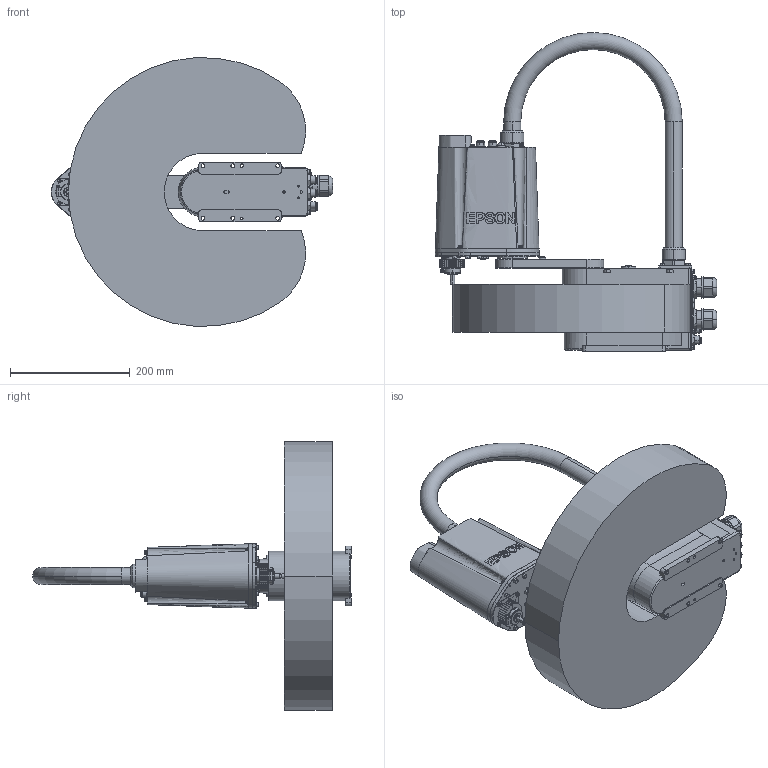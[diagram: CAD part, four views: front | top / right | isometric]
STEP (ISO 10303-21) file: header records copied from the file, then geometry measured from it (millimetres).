
FILE_DESCRIPTION (( 'STEP AP214' ), '1' );
FILE_NAME ('GX1-x221C.STEP', '2025-04-16T21:09:35', ( '' ), ( '' ), 'SwSTEP 2.0', 'SolidWorks 2020', '' );
FILE_SCHEMA (( 'AUTOMOTIVE_DESIGN' ));
Length unit declared in the file: millimetre
Products named in the file (9): GX1-C221C - Shaft; GX1-C221C-J1 Arm 2; GX1-C221C-cable; Bellows 2  - GX1-C221C; GX1-C221C-WS; Bellows 1 - GX1-C221C; GX1-C221C-J1 Arm 1; GX1-C221C-Base; GX1-x221C
Assembly tree (8 placements, depth 2):
  GX1-x221C
    GX1-C221C-Base
    GX1-C221C-J1 Arm 1
    GX1-C221C-J1 Arm 2
    GX1-C221C - Shaft
    Bellows 1 - GX1-C221C
    Bellows 2  - GX1-C221C
    GX1-C221C-cable
    GX1-C221C-WS
Bounding box: 470.68 x 533.25 x 449.26 mm (x, y, z)
Volume: 15073520.6 mm3; surface area: 807098.3 mm2
Topology: 8 solids, 14 shells, 2145 faces, 5084 edges, 3275 vertices
Faces by surface type: cylinder 987, plane 787, cone 304, torus 38, bspline 27, sphere 2
Entity records: 72631 total; most frequent: CARTESIAN_POINT 17599, ORIENTED_EDGE 10160, DIRECTION 10057, EDGE_CURVE 5080, AXIS2_PLACEMENT_3D 3895, VERTEX_POINT 3273, EDGE_LOOP 2483, LINE 2267
